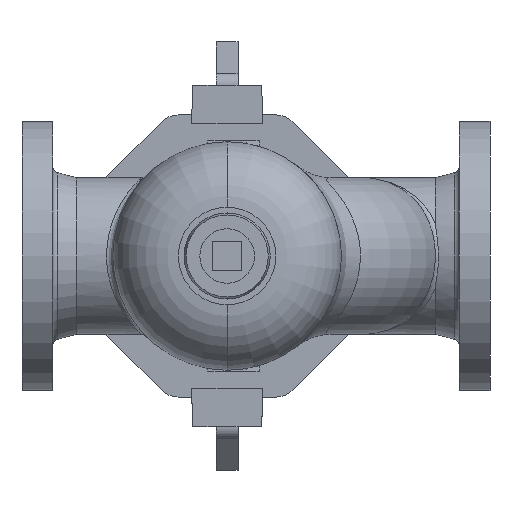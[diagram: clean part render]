
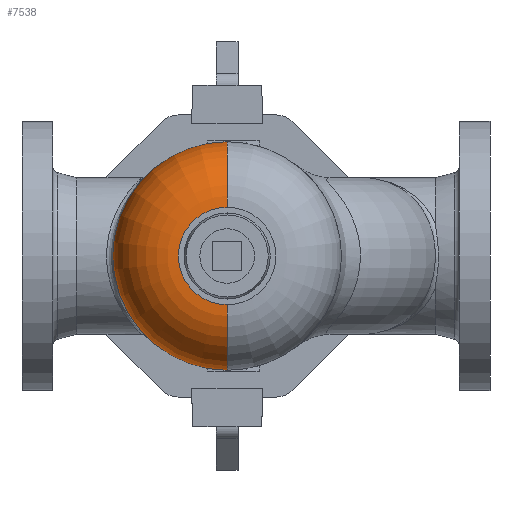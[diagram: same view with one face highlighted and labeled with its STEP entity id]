
A CAD part, front view. The second image highlights one B-rep face of the part: STEP entity #7538.
In plain terms, the highlighted toroidal (fillet/blend) face has major radius 38 mm and minor radius 51 mm.
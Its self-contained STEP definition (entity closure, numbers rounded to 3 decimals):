
#126 = EDGE_CURVE ( 'NONE', #1313, #1790, #4130, .T. ) ;
#390 = DIRECTION ( 'NONE',  ( 1., 0., 0. ) ) ;
#526 = ORIENTED_EDGE ( 'NONE', *, *, #8715, .F. ) ;
#860 = DIRECTION ( 'NONE',  ( 0., 0., 1. ) ) ;
#889 = AXIS2_PLACEMENT_3D ( 'NONE', #8007, #8900, #3392 ) ;
#1052 = DIRECTION ( 'NONE',  ( 0., 1., 0. ) ) ;
#1192 = CARTESIAN_POINT ( 'NONE',  ( 0., -205., -38. ) ) ;
#1313 = VERTEX_POINT ( 'NONE', #7572 ) ;
#1693 = CARTESIAN_POINT ( 'NONE',  ( 0., -205., -89. ) ) ;
#1790 = VERTEX_POINT ( 'NONE', #8791 ) ;
#1837 = ORIENTED_EDGE ( 'NONE', *, *, #5112, .T. ) ;
#1844 = EDGE_LOOP ( 'NONE', ( #6361, #1837, #8312, #526 ) ) ;
#1971 = CIRCLE ( 'NONE', #4528, 51. ) ;
#2136 = CARTESIAN_POINT ( 'NONE',  ( 0., -205., 0. ) ) ;
#2477 = AXIS2_PLACEMENT_3D ( 'NONE', #2136, #4235, #8196 ) ;
#2843 = VERTEX_POINT ( 'NONE', #1693 ) ;
#3262 = CARTESIAN_POINT ( 'NONE',  ( 0., -205., 38. ) ) ;
#3392 = DIRECTION ( 'NONE',  ( 0., 0., 1. ) ) ;
#3447 = DIRECTION ( 'NONE',  ( 0., 0., -1. ) ) ;
#3484 = AXIS2_PLACEMENT_3D ( 'NONE', #4571, #1052, #860 ) ;
#4130 = CIRCLE ( 'NONE', #9729, 51. ) ;
#4235 = DIRECTION ( 'NONE',  ( 0., 1., 0. ) ) ;
#4528 = AXIS2_PLACEMENT_3D ( 'NONE', #1192, #390, #3447 ) ;
#4571 = CARTESIAN_POINT ( 'NONE',  ( 0., -256., 0. ) ) ;
#4572 = CIRCLE ( 'NONE', #889, 89. ) ;
#4872 = DIRECTION ( 'NONE',  ( -1., 0., 0. ) ) ;
#5112 = EDGE_CURVE ( 'NONE', #6816, #1313, #6054, .T. ) ;
#5141 = FACE_OUTER_BOUND ( 'NONE', #1844, .T. ) ;
#6054 = CIRCLE ( 'NONE', #3484, 38. ) ;
#6361 = ORIENTED_EDGE ( 'NONE', *, *, #9319, .F. ) ;
#6816 = VERTEX_POINT ( 'NONE', #7865 ) ;
#7538 = ADVANCED_FACE ( 'NONE', ( #5141 ), #9836, .T. ) ;
#7572 = CARTESIAN_POINT ( 'NONE',  ( 0., -256., 38. ) ) ;
#7865 = CARTESIAN_POINT ( 'NONE',  ( 0., -256., -38. ) ) ;
#8007 = CARTESIAN_POINT ( 'NONE',  ( 0., -205., 0. ) ) ;
#8196 = DIRECTION ( 'NONE',  ( 0., 0., 1. ) ) ;
#8312 = ORIENTED_EDGE ( 'NONE', *, *, #126, .T. ) ;
#8624 = DIRECTION ( 'NONE',  ( 0., 0., 1. ) ) ;
#8715 = EDGE_CURVE ( 'NONE', #2843, #1790, #4572, .T. ) ;
#8791 = CARTESIAN_POINT ( 'NONE',  ( 0., -205., 89. ) ) ;
#8900 = DIRECTION ( 'NONE',  ( 0., 1., 0. ) ) ;
#9319 = EDGE_CURVE ( 'NONE', #6816, #2843, #1971, .T. ) ;
#9729 = AXIS2_PLACEMENT_3D ( 'NONE', #3262, #4872, #8624 ) ;
#9836 = TOROIDAL_SURFACE ( 'NONE', #2477, 38., 51. ) ;
